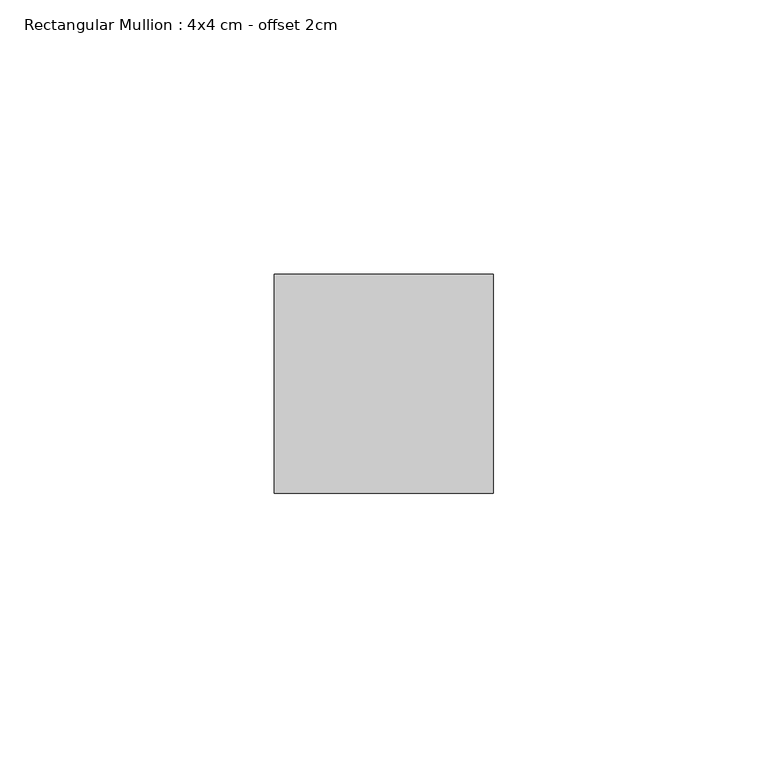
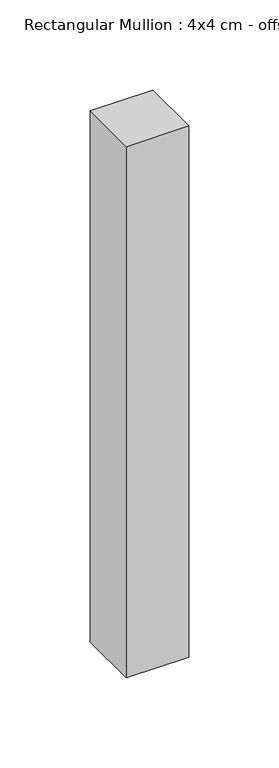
"""IFC4 building model written with IfcOpenShell, lengths in millimetres: member geometry, Rectangular Mullion : 4x4 cm - offset 2cm."""

from ifc_helpers import new_model, si_unit, frame, origin, place, context, project, spatial, polyline, outline, extrude, source, transform, mapped, element, save


def rectangular_mullion_4x4_cm_offset_2cm_c7dd14bb(model_context):
    return source(origin(), model_context, "Body", "SweptSolid", [
        extrude(outline(polyline([(0.0, 40.0), (0.0, 0.0), (-40.0, 0.0), (-40.0, 40.0), (0.0, 40.0)])), frame((0.0, 0.0, -359.9999997), z_axis=(0.0, 0.0, 1.0), x_axis=(1.0, 0.0, 0.0)), (0.0, 0.0, 1.0), 359.9999997),
    ])


if __name__ == "__main__":
    model = new_model("IFC4")
    model_context = context("Model", 3, world=origin())
    ifc_project = project(units=[si_unit("LENGTHUNIT", "METRE", prefix="MILLI")], contexts=[model_context])
    site = spatial("IfcSite", under=ifc_project)
    building = spatial("IfcBuilding", under=site)
    placement = place(None, origin())
    rectangular_mullion_4x4_cm_offset_2cm_shape = rectangular_mullion_4x4_cm_offset_2cm_c7dd14bb(model_context)
    element("IfcMember", 1, ObjectType="Rectangular Mullion : 4x4 cm - offset 2cm", at=placement, inside=building, context=model_context, shape_type="MappedRepresentation", body=[
        mapped(rectangular_mullion_4x4_cm_offset_2cm_shape, transform((0.0, 0.0, 0.0), x_axis=(1.0, 0.0, 0.0), y_axis=(0.0, 1.0, 0.0), z_axis=(0.0, 0.0, 1.0))),
    ])
    save(model, "model.ifc")
